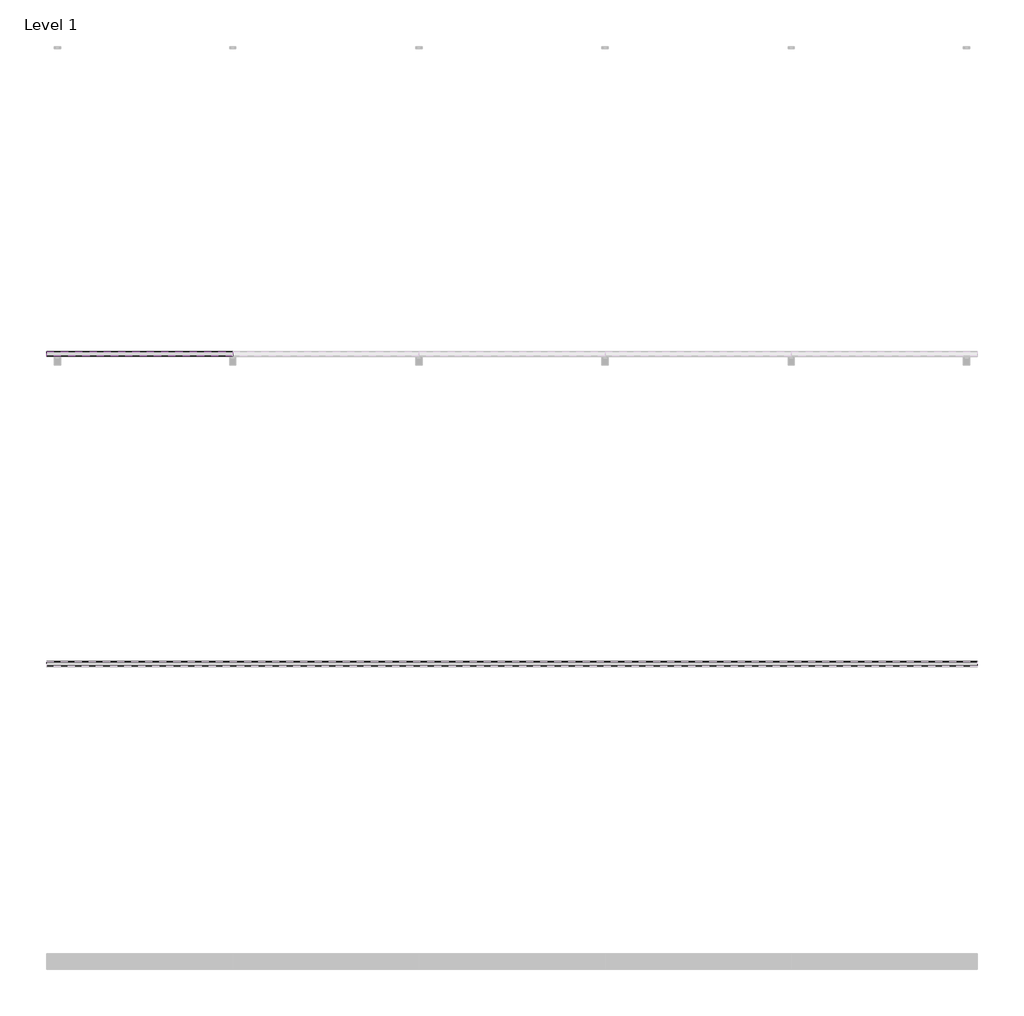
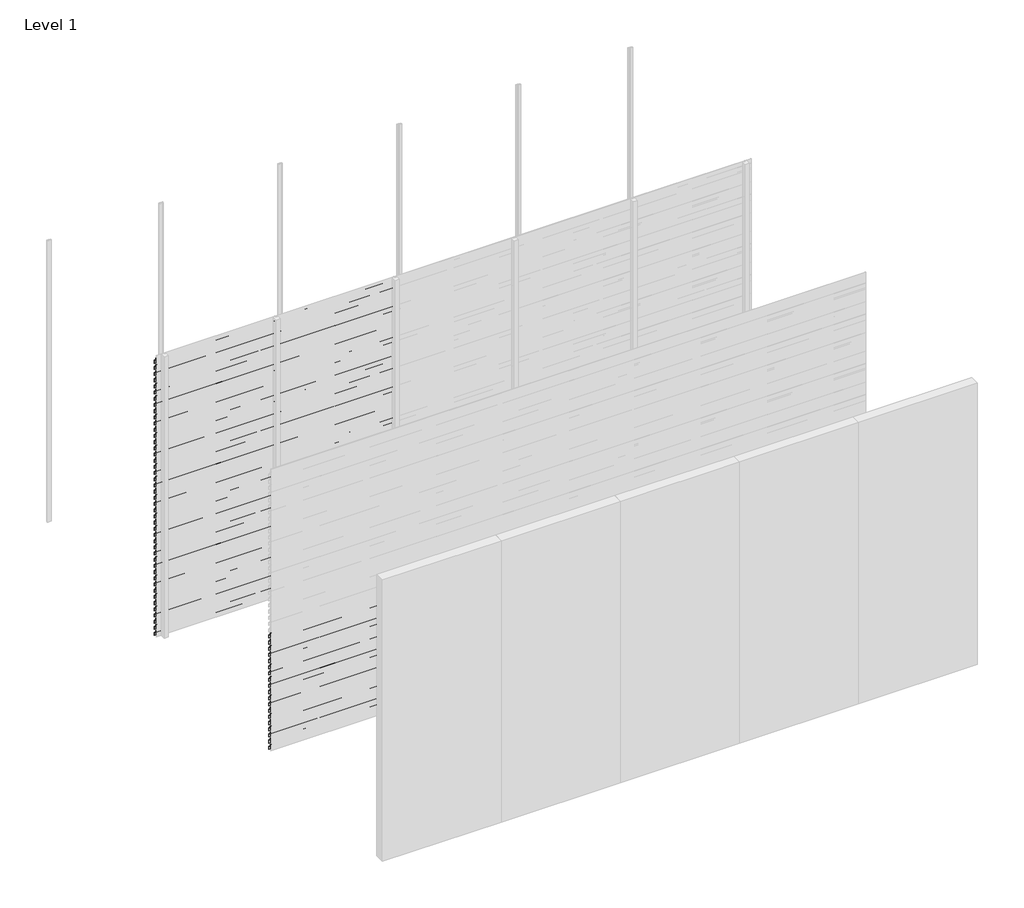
# One storey, part 16 of 33: 88 proxies.
"""IFC4 building model written with IfcOpenShell, lengths in millimetres."""

import ifcopenshell
import ifcopenshell.guid

model = None  # the IFC model being written
_history = None  # IfcOwnerHistory: only IFC2X3 demands one
_inside = {}  # id of a spatial element -> (the spatial element, [elements in it])
_under = {}  # id of a project, library or spatial element -> (it, [spatial elements below it])
_declared = {}  # id of a project -> (the project, [libraries it declares])
_typed = {}  # id of a type object -> (the type object, [elements of that type])
_made_of = {}  # id of a material, layer set ... -> (it, [elements and type objects made of it])


def new_model(schema):
    """Start an empty IFC model of exactly this schema.

    Asked for "IFC4X3", IfcOpenShell would pick the latest addendum, in which some entities
    have other attributes; the version numbers below select the first issue.
    IFC2X3 requires an IfcOwnerHistory on every rooted entity: one is made here for all.
    """
    global model, _history
    if schema == "IFC4X3":
        model = ifcopenshell.file(schema_version=(4, 3, 0, 0))
    else:
        model = ifcopenshell.file(schema=schema)
    _inside.clear()
    _under.clear()
    _declared.clear()
    _typed.clear()
    _made_of.clear()
    _history = None
    if model.schema == "IFC2X3":
        org = make("IfcOrganization", Name="unknown")
        user = make(
            "IfcPersonAndOrganization",
            ThePerson=make("IfcPerson", FamilyName="unknown"),
            TheOrganization=org,
        )
        app = make(
            "IfcApplication",
            ApplicationDeveloper=org,
            Version="unknown",
            ApplicationFullName="unknown",
            ApplicationIdentifier="unknown",
        )
        _history = make(
            "IfcOwnerHistory",
            OwningUser=user,
            OwningApplication=app,
            ChangeAction="ADDED",
            CreationDate=0,
        )
    return model


def make(cls, **values):
    """One entity of the class cls with the attributes given. An attribute that is None is left unset."""
    return model.create_entity(
        cls, **{name: value for name, value in values.items() if value is not None}
    )


def rooted(cls, **values):
    """An entity with a GlobalId (a new one), such as an element, a storey or a relation."""
    return make(cls, GlobalId=ifcopenshell.guid.new(), OwnerHistory=_history, **values)


def si_unit(unit_type, name, prefix=None):
    """IfcSIUnit, for example si_unit("LENGTHUNIT", "METRE", prefix="MILLI")."""
    return make("IfcSIUnit", UnitType=unit_type, Prefix=prefix, Name=name)


def assignment(units):
    """IfcUnitAssignment: the units of a project."""
    return None if units is None else make("IfcUnitAssignment", Units=units)


def point(xyz):
    """IfcCartesianPoint."""
    return None if xyz is None else make("IfcCartesianPoint", Coordinates=xyz)


def direction(xyz):
    """IfcDirection."""
    return None if xyz is None else make("IfcDirection", DirectionRatios=xyz)


def frame(location, z_axis=None, x_axis=None):
    """IfcAxis2Placement3D, a coordinate frame: its origin and axes. An axis left out is left unset."""
    return make(
        "IfcAxis2Placement3D",
        Location=point(location),
        Axis=direction(z_axis),
        RefDirection=direction(x_axis),
    )


def origin():
    """The frame at (0, 0, 0) with its axes left unset."""
    return frame((0.0, 0.0, 0.0))


def place(relative_to, where):
    """IfcLocalPlacement: puts the frame where relative to a parent placement (None: the world)."""
    return make(
        "IfcLocalPlacement", PlacementRelTo=relative_to, RelativePlacement=where
    )


def context(
    kind, dimensions, precision=None, world=None, true_north=None, identifier=None
):
    """IfcGeometricRepresentationContext, for example the 3D "Model" context."""
    return make(
        "IfcGeometricRepresentationContext",
        ContextIdentifier=identifier,
        ContextType=kind,
        CoordinateSpaceDimension=dimensions,
        Precision=precision,
        WorldCoordinateSystem=world,
        TrueNorth=true_north,
    )


def project(units=None, contexts=None):
    """IfcProject with its units and contexts."""
    return rooted(
        "IfcProject",
        Name="project",
        RepresentationContexts=contexts,
        UnitsInContext=assignment(units),
    )


def spatial(cls, under=None, at=None, **own):
    """A site, building, storey or space (cls), placed at a placement, below another one or the project."""
    s = rooted(cls, ObjectPlacement=at, **own)
    if under is not None:
        _under.setdefault(under.id(), (under, []))[1].append(s)
    return s


def polyline(points):
    """IfcPolyline through the points."""
    return make("IfcPolyline", Points=[point(p) for p in points])


def outline(outer, holes=None, kind="AREA"):
    """IfcArbitraryClosedProfileDef: a profile drawn as a closed curve; with holes, ...WithVoids."""
    if holes is None:
        return make("IfcArbitraryClosedProfileDef", ProfileType=kind, OuterCurve=outer)
    return make(
        "IfcArbitraryProfileDefWithVoids",
        ProfileType=kind,
        OuterCurve=outer,
        InnerCurves=holes,
    )


def extrude(swept, where, along, depth):
    """IfcExtrudedAreaSolid: the profile swept, set in the frame where, extruded along a direction by depth."""
    return make(
        "IfcExtrudedAreaSolid",
        SweptArea=swept,
        Position=where,
        ExtrudedDirection=direction(along),
        Depth=depth,
    )


def shape(context_of_items, identifier, shape_type, items):
    """IfcShapeRepresentation: the items that make up one representation, for example the "Body"."""
    return make(
        "IfcShapeRepresentation",
        ContextOfItems=context_of_items,
        RepresentationIdentifier=identifier,
        RepresentationType=shape_type,
        Items=items,
    )


def made_of(thing, what):
    """Note that an element or type object is made of a material, layer set ...; save() writes the relation."""
    if what is not None:
        _made_of.setdefault(what.id(), (what, []))[1].append(thing)
    return thing


def element(
    cls,
    number,
    at=None,
    inside=None,
    cuts=None,
    type_object=None,
    material=None,
    context=None,
    identifier="Body",
    shape_type=None,
    held_by="IfcProductDefinitionShape",
    body=None,
    shapes=None,
    **own,
):
    """One element of the class cls, such as IfcWall. Its Tag is "e" and its number.

    at: its placement. inside: the storey or other place that contains it. cuts: it is an
    opening in that element (IfcRelVoidsElement). A single representation is given by context,
    identifier, shape_type and body (its items); several are given by shapes. held_by: the class
    of the entity that holds the representations. save() writes the other relations.
    """
    e = rooted(cls, Tag="e%d" % number, ObjectPlacement=at, **own)
    if body is not None:
        shapes = [shape(context, identifier, shape_type, body)]
    if shapes is not None:
        e.Representation = make(held_by, Representations=shapes)
    if inside is not None:
        _inside.setdefault(inside.id(), (inside, []))[1].append(e)
    if cuts is not None:
        rooted(
            "IfcRelVoidsElement", RelatingBuildingElement=cuts, RelatedOpeningElement=e
        )
    if type_object is not None:
        _typed.setdefault(type_object.id(), (type_object, []))[1].append(e)
    return made_of(e, material)


def aggregate(whole, parts):
    """IfcRelAggregates: a whole, such as a stair, and the parts it consists of."""
    return rooted("IfcRelAggregates", RelatingObject=whole, RelatedObjects=parts)


def save(model, path):
    """Write the relations noted so far, then the file.

    IfcRelAggregates (storeys below a building ...), IfcRelContainedInSpatialStructure (elements
    in a storey), IfcRelDefinesByType, IfcRelAssociatesMaterial and IfcRelDeclares: one each for
    every whole, place, type object, material and project.
    """
    for whole, parts in _under.values():
        aggregate(whole, parts)
    for where, things in _inside.values():
        rooted(
            "IfcRelContainedInSpatialStructure",
            RelatedElements=things,
            RelatingStructure=where,
        )
    for kind, things in _typed.values():
        rooted("IfcRelDefinesByType", RelatedObjects=things, RelatingType=kind)
    for what, things in _made_of.values():
        rooted("IfcRelAssociatesMaterial", RelatedObjects=things, RelatingMaterial=what)
    for by, libraries in _declared.values():
        rooted("IfcRelDeclares", RelatingContext=by, RelatedDefinitions=libraries)
    model.write(path)


model = new_model("IFC4")

# Units and contexts
model_context = context("Model", 3, world=origin())
ifc_project = project(units=[si_unit("LENGTHUNIT", "METRE", prefix="MILLI")], contexts=[model_context])

# Site, building, storey
site = spatial("IfcSite", under=ifc_project)
building = spatial("IfcBuilding", under=site)
storey = spatial("IfcBuildingStorey", under=building, Name="Level 1", Elevation=0.0)

# Proxies
placement = place(None, origin())
element("IfcBuildingElementProxy", 1, Name="Wall Sweeps", at=placement, inside=storey, context=model_context, shape_type="SweptSolid", body=[
    extrude(outline(polyline([(-29967.0, 2930.0), (-29967.0, 2897.0), (-29968.25, 2897.7216933), (-29968.25, 2929.2872415), (-29998.0, 2950.0588647), (-29998.0, 2970.0), (-29996.75, 2970.0), (-29996.75, 2950.7716232), (-29967.0, 2930.0)])), frame((0.0, 0.0, 0.0), z_axis=(1.0, 0.0, 0.0), x_axis=(0.0, 1.0, 0.0)), (0.0, 0.0, 1.0), 1200.0),
])
element("IfcBuildingElementProxy", 2, Name="Wall Sweeps", at=placement, inside=storey, context=model_context, shape_type="SweptSolid", body=[
    extrude(outline(polyline([(-29967.0, 2864.0), (-29967.0, 2831.0), (-29968.25, 2831.7216933), (-29968.25, 2863.2872415), (-29998.0, 2884.0588647), (-29998.0, 2904.0), (-29996.75, 2904.0), (-29996.75, 2884.7716232), (-29967.0, 2864.0)])), frame((0.0, 0.0, 0.0), z_axis=(1.0, 0.0, 0.0), x_axis=(0.0, 1.0, 0.0)), (0.0, 0.0, 1.0), 1200.0),
])
element("IfcBuildingElementProxy", 3, Name="Wall Sweeps", at=placement, inside=storey, context=model_context, shape_type="SweptSolid", body=[
    extrude(outline(polyline([(-29967.0, 2798.0), (-29967.0, 2765.0), (-29968.25, 2765.7216933), (-29968.25, 2797.2872415), (-29998.0, 2818.0588647), (-29998.0, 2838.0), (-29996.75, 2838.0), (-29996.75, 2818.7716232), (-29967.0, 2798.0)])), frame((0.0, 0.0, 0.0), z_axis=(1.0, 0.0, 0.0), x_axis=(0.0, 1.0, 0.0)), (0.0, 0.0, 1.0), 1200.0),
])
element("IfcBuildingElementProxy", 4, Name="Wall Sweeps", at=placement, inside=storey, context=model_context, shape_type="SweptSolid", body=[
    extrude(outline(polyline([(-29967.0, 2732.0), (-29967.0, 2699.0), (-29968.25, 2699.7216933), (-29968.25, 2731.2872415), (-29998.0, 2752.0588647), (-29998.0, 2772.0), (-29996.75, 2772.0), (-29996.75, 2752.7716232), (-29967.0, 2732.0)])), frame((0.0, 0.0, 0.0), z_axis=(1.0, 0.0, 0.0), x_axis=(0.0, 1.0, 0.0)), (0.0, 0.0, 1.0), 1200.0),
])
element("IfcBuildingElementProxy", 5, Name="Wall Sweeps", at=placement, inside=storey, context=model_context, shape_type="SweptSolid", body=[
    extrude(outline(polyline([(-29967.0, 2666.0), (-29967.0, 2633.0), (-29968.25, 2633.7216933), (-29968.25, 2665.2872415), (-29998.0, 2686.0588647), (-29998.0, 2706.0), (-29996.75, 2706.0), (-29996.75, 2686.7716232), (-29967.0, 2666.0)])), frame((0.0, 0.0, 0.0), z_axis=(1.0, 0.0, 0.0), x_axis=(0.0, 1.0, 0.0)), (0.0, 0.0, 1.0), 1200.0),
])
element("IfcBuildingElementProxy", 6, Name="Wall Sweeps", at=placement, inside=storey, context=model_context, shape_type="SweptSolid", body=[
    extrude(outline(polyline([(-29967.0, 2600.0), (-29967.0, 2567.0), (-29968.25, 2567.7216933), (-29968.25, 2599.2872415), (-29998.0, 2620.0588647), (-29998.0, 2640.0), (-29996.75, 2640.0), (-29996.75, 2620.7716232), (-29967.0, 2600.0)])), frame((0.0, 0.0, 0.0), z_axis=(1.0, 0.0, 0.0), x_axis=(0.0, 1.0, 0.0)), (0.0, 0.0, 1.0), 1200.0),
])
element("IfcBuildingElementProxy", 7, Name="Wall Sweeps", at=placement, inside=storey, context=model_context, shape_type="SweptSolid", body=[
    extrude(outline(polyline([(-29967.0, 2534.0), (-29967.0, 2501.0), (-29968.25, 2501.7216933), (-29968.25, 2533.2872415), (-29998.0, 2554.0588647), (-29998.0, 2574.0), (-29996.75, 2574.0), (-29996.75, 2554.7716232), (-29967.0, 2534.0)])), frame((0.0, 0.0, 0.0), z_axis=(1.0, 0.0, 0.0), x_axis=(0.0, 1.0, 0.0)), (0.0, 0.0, 1.0), 1200.0),
])
element("IfcBuildingElementProxy", 8, Name="Wall Sweeps", at=placement, inside=storey, context=model_context, shape_type="SweptSolid", body=[
    extrude(outline(polyline([(-29967.0, 2468.0), (-29967.0, 2435.0), (-29968.25, 2435.7216933), (-29968.25, 2467.2872415), (-29998.0, 2488.0588647), (-29998.0, 2508.0), (-29996.75, 2508.0), (-29996.75, 2488.7716232), (-29967.0, 2468.0)])), frame((0.0, 0.0, 0.0), z_axis=(1.0, 0.0, 0.0), x_axis=(0.0, 1.0, 0.0)), (0.0, 0.0, 1.0), 1200.0),
])
element("IfcBuildingElementProxy", 9, Name="Wall Sweeps", at=placement, inside=storey, context=model_context, shape_type="SweptSolid", body=[
    extrude(outline(polyline([(-29967.0, 2402.0), (-29967.0, 2369.0), (-29968.25, 2369.7216933), (-29968.25, 2401.2872415), (-29998.0, 2422.0588647), (-29998.0, 2442.0), (-29996.75, 2442.0), (-29996.75, 2422.7716232), (-29967.0, 2402.0)])), frame((0.0, 0.0, 0.0), z_axis=(1.0, 0.0, 0.0), x_axis=(0.0, 1.0, 0.0)), (0.0, 0.0, 1.0), 1200.0),
])
element("IfcBuildingElementProxy", 10, Name="Wall Sweeps", at=placement, inside=storey, context=model_context, shape_type="SweptSolid", body=[
    extrude(outline(polyline([(-29967.0, 2336.0), (-29967.0, 2303.0), (-29968.25, 2303.7216933), (-29968.25, 2335.2872415), (-29998.0, 2356.0588647), (-29998.0, 2376.0), (-29996.75, 2376.0), (-29996.75, 2356.7716232), (-29967.0, 2336.0)])), frame((0.0, 0.0, 0.0), z_axis=(1.0, 0.0, 0.0), x_axis=(0.0, 1.0, 0.0)), (0.0, 0.0, 1.0), 1200.0),
])
element("IfcBuildingElementProxy", 11, Name="Wall Sweeps", at=placement, inside=storey, context=model_context, shape_type="SweptSolid", body=[
    extrude(outline(polyline([(-29967.0, 2270.0), (-29967.0, 2237.0), (-29968.25, 2237.7216933), (-29968.25, 2269.2872415), (-29998.0, 2290.0588647), (-29998.0, 2310.0), (-29996.75, 2310.0), (-29996.75, 2290.7716232), (-29967.0, 2270.0)])), frame((0.0, 0.0, 0.0), z_axis=(1.0, 0.0, 0.0), x_axis=(0.0, 1.0, 0.0)), (0.0, 0.0, 1.0), 1200.0),
])
element("IfcBuildingElementProxy", 12, Name="Wall Sweeps", at=placement, inside=storey, context=model_context, shape_type="SweptSolid", body=[
    extrude(outline(polyline([(-29967.0, 2204.0), (-29967.0, 2171.0), (-29968.25, 2171.7216933), (-29968.25, 2203.2872415), (-29998.0, 2224.0588647), (-29998.0, 2244.0), (-29996.75, 2244.0), (-29996.75, 2224.7716232), (-29967.0, 2204.0)])), frame((0.0, 0.0, 0.0), z_axis=(1.0, 0.0, 0.0), x_axis=(0.0, 1.0, 0.0)), (0.0, 0.0, 1.0), 1200.0),
])
element("IfcBuildingElementProxy", 13, Name="Wall Sweeps", at=placement, inside=storey, context=model_context, shape_type="SweptSolid", body=[
    extrude(outline(polyline([(-29967.0, 2138.0), (-29967.0, 2105.0), (-29968.25, 2105.7216933), (-29968.25, 2137.2872415), (-29998.0, 2158.0588647), (-29998.0, 2178.0), (-29996.75, 2178.0), (-29996.75, 2158.7716232), (-29967.0, 2138.0)])), frame((0.0, 0.0, 0.0), z_axis=(1.0, 0.0, 0.0), x_axis=(0.0, 1.0, 0.0)), (0.0, 0.0, 1.0), 1200.0),
])
element("IfcBuildingElementProxy", 14, Name="Wall Sweeps", at=placement, inside=storey, context=model_context, shape_type="SweptSolid", body=[
    extrude(outline(polyline([(-29967.0, 2072.0), (-29967.0, 2039.0), (-29968.25, 2039.7216933), (-29968.25, 2071.2872415), (-29998.0, 2092.0588647), (-29998.0, 2112.0), (-29996.75, 2112.0), (-29996.75, 2092.7716232), (-29967.0, 2072.0)])), frame((0.0, 0.0, 0.0), z_axis=(1.0, 0.0, 0.0), x_axis=(0.0, 1.0, 0.0)), (0.0, 0.0, 1.0), 1200.0),
])
element("IfcBuildingElementProxy", 15, Name="Wall Sweeps", at=placement, inside=storey, context=model_context, shape_type="SweptSolid", body=[
    extrude(outline(polyline([(-29967.0, 2006.0), (-29967.0, 1973.0), (-29968.25, 1973.7216933), (-29968.25, 2005.2872415), (-29998.0, 2026.0588647), (-29998.0, 2046.0), (-29996.75, 2046.0), (-29996.75, 2026.7716232), (-29967.0, 2006.0)])), frame((0.0, 0.0, 0.0), z_axis=(1.0, 0.0, 0.0), x_axis=(0.0, 1.0, 0.0)), (0.0, 0.0, 1.0), 1200.0),
])
element("IfcBuildingElementProxy", 16, Name="Wall Sweeps", at=placement, inside=storey, context=model_context, shape_type="SweptSolid", body=[
    extrude(outline(polyline([(-29967.0, 1940.0), (-29967.0, 1907.0), (-29968.25, 1907.7216933), (-29968.25, 1939.2872415), (-29998.0, 1960.0588647), (-29998.0, 1980.0), (-29996.75, 1980.0), (-29996.75, 1960.7716232), (-29967.0, 1940.0)])), frame((0.0, 0.0, 0.0), z_axis=(1.0, 0.0, 0.0), x_axis=(0.0, 1.0, 0.0)), (0.0, 0.0, 1.0), 1200.0),
])
element("IfcBuildingElementProxy", 17, Name="Wall Sweeps", at=placement, inside=storey, context=model_context, shape_type="SweptSolid", body=[
    extrude(outline(polyline([(-29967.0, 1874.0), (-29967.0, 1841.0), (-29968.25, 1841.7216933), (-29968.25, 1873.2872415), (-29998.0, 1894.0588647), (-29998.0, 1914.0), (-29996.75, 1914.0), (-29996.75, 1894.7716232), (-29967.0, 1874.0)])), frame((0.0, 0.0, 0.0), z_axis=(1.0, 0.0, 0.0), x_axis=(0.0, 1.0, 0.0)), (0.0, 0.0, 1.0), 1200.0),
])
element("IfcBuildingElementProxy", 18, Name="Wall Sweeps", at=placement, inside=storey, context=model_context, shape_type="SweptSolid", body=[
    extrude(outline(polyline([(-29967.0, 1808.0), (-29967.0, 1775.0), (-29968.25, 1775.7216933), (-29968.25, 1807.2872415), (-29998.0, 1828.0588647), (-29998.0, 1848.0), (-29996.75, 1848.0), (-29996.75, 1828.7716232), (-29967.0, 1808.0)])), frame((0.0, 0.0, 0.0), z_axis=(1.0, 0.0, 0.0), x_axis=(0.0, 1.0, 0.0)), (0.0, 0.0, 1.0), 1200.0),
])
element("IfcBuildingElementProxy", 19, Name="Wall Sweeps", at=placement, inside=storey, context=model_context, shape_type="SweptSolid", body=[
    extrude(outline(polyline([(-29967.0, 1742.0), (-29967.0, 1709.0), (-29968.25, 1709.7216933), (-29968.25, 1741.2872415), (-29998.0, 1762.0588647), (-29998.0, 1782.0), (-29996.75, 1782.0), (-29996.75, 1762.7716232), (-29967.0, 1742.0)])), frame((0.0, 0.0, 0.0), z_axis=(1.0, 0.0, 0.0), x_axis=(0.0, 1.0, 0.0)), (0.0, 0.0, 1.0), 1200.0),
])
element("IfcBuildingElementProxy", 20, Name="Wall Sweeps", at=placement, inside=storey, context=model_context, shape_type="SweptSolid", body=[
    extrude(outline(polyline([(-29967.0, 1676.0), (-29967.0, 1643.0), (-29968.25, 1643.7216933), (-29968.25, 1675.2872415), (-29998.0, 1696.0588647), (-29998.0, 1716.0), (-29996.75, 1716.0), (-29996.75, 1696.7716232), (-29967.0, 1676.0)])), frame((0.0, 0.0, 0.0), z_axis=(1.0, 0.0, 0.0), x_axis=(0.0, 1.0, 0.0)), (0.0, 0.0, 1.0), 1200.0),
])
element("IfcBuildingElementProxy", 21, Name="Wall Sweeps", at=placement, inside=storey, context=model_context, shape_type="SweptSolid", body=[
    extrude(outline(polyline([(-29967.0, 1610.0), (-29967.0, 1577.0), (-29968.25, 1577.7216933), (-29968.25, 1609.2872415), (-29998.0, 1630.0588647), (-29998.0, 1650.0), (-29996.75, 1650.0), (-29996.75, 1630.7716232), (-29967.0, 1610.0)])), frame((0.0, 0.0, 0.0), z_axis=(1.0, 0.0, 0.0), x_axis=(0.0, 1.0, 0.0)), (0.0, 0.0, 1.0), 1200.0),
])
element("IfcBuildingElementProxy", 22, Name="Wall Sweeps", at=placement, inside=storey, context=model_context, shape_type="SweptSolid", body=[
    extrude(outline(polyline([(-29967.0, 1544.0), (-29967.0, 1511.0), (-29968.25, 1511.7216933), (-29968.25, 1543.2872415), (-29998.0, 1564.0588647), (-29998.0, 1584.0), (-29996.75, 1584.0), (-29996.75, 1564.7716232), (-29967.0, 1544.0)])), frame((0.0, 0.0, 0.0), z_axis=(1.0, 0.0, 0.0), x_axis=(0.0, 1.0, 0.0)), (0.0, 0.0, 1.0), 1200.0),
])
element("IfcBuildingElementProxy", 23, Name="Wall Sweeps", at=placement, inside=storey, context=model_context, shape_type="SweptSolid", body=[
    extrude(outline(polyline([(-29967.0, 1478.0), (-29967.0, 1445.0), (-29968.25, 1445.7216933), (-29968.25, 1477.2872415), (-29998.0, 1498.0588647), (-29998.0, 1518.0), (-29996.75, 1518.0), (-29996.75, 1498.7716232), (-29967.0, 1478.0)])), frame((0.0, 0.0, 0.0), z_axis=(1.0, 0.0, 0.0), x_axis=(0.0, 1.0, 0.0)), (0.0, 0.0, 1.0), 1200.0),
])
element("IfcBuildingElementProxy", 24, Name="Wall Sweeps", at=placement, inside=storey, context=model_context, shape_type="SweptSolid", body=[
    extrude(outline(polyline([(-29967.0, 1412.0), (-29967.0, 1379.0), (-29968.25, 1379.7216933), (-29968.25, 1411.2872415), (-29998.0, 1432.0588647), (-29998.0, 1452.0), (-29996.75, 1452.0), (-29996.75, 1432.7716232), (-29967.0, 1412.0)])), frame((0.0, 0.0, 0.0), z_axis=(1.0, 0.0, 0.0), x_axis=(0.0, 1.0, 0.0)), (0.0, 0.0, 1.0), 1200.0),
])
element("IfcBuildingElementProxy", 25, Name="Wall Sweeps", at=placement, inside=storey, context=model_context, shape_type="SweptSolid", body=[
    extrude(outline(polyline([(-29967.0, 1346.0), (-29967.0, 1313.0), (-29968.25, 1313.7216933), (-29968.25, 1345.2872415), (-29998.0, 1366.0588647), (-29998.0, 1386.0), (-29996.75, 1386.0), (-29996.75, 1366.7716232), (-29967.0, 1346.0)])), frame((0.0, 0.0, 0.0), z_axis=(1.0, 0.0, 0.0), x_axis=(0.0, 1.0, 0.0)), (0.0, 0.0, 1.0), 1200.0),
])
element("IfcBuildingElementProxy", 26, Name="Wall Sweeps", at=placement, inside=storey, context=model_context, shape_type="SweptSolid", body=[
    extrude(outline(polyline([(-29967.0, 1280.0), (-29967.0, 1247.0), (-29968.25, 1247.7216933), (-29968.25, 1279.2872415), (-29998.0, 1300.0588647), (-29998.0, 1320.0), (-29996.75, 1320.0), (-29996.75, 1300.7716232), (-29967.0, 1280.0)])), frame((0.0, 0.0, 0.0), z_axis=(1.0, 0.0, 0.0), x_axis=(0.0, 1.0, 0.0)), (0.0, 0.0, 1.0), 1200.0),
])
element("IfcBuildingElementProxy", 27, Name="Wall Sweeps", at=placement, inside=storey, context=model_context, shape_type="SweptSolid", body=[
    extrude(outline(polyline([(-29967.0, 1214.0), (-29967.0, 1181.0), (-29968.25, 1181.7216933), (-29968.25, 1213.2872415), (-29998.0, 1234.0588647), (-29998.0, 1254.0), (-29996.75, 1254.0), (-29996.75, 1234.7716232), (-29967.0, 1214.0)])), frame((0.0, 0.0, 0.0), z_axis=(1.0, 0.0, 0.0), x_axis=(0.0, 1.0, 0.0)), (0.0, 0.0, 1.0), 1200.0),
])
element("IfcBuildingElementProxy", 28, Name="Wall Sweeps", at=placement, inside=storey, context=model_context, shape_type="SweptSolid", body=[
    extrude(outline(polyline([(-29967.0, 1148.0), (-29967.0, 1115.0), (-29968.25, 1115.7216933), (-29968.25, 1147.2872415), (-29998.0, 1168.0588647), (-29998.0, 1188.0), (-29996.75, 1188.0), (-29996.75, 1168.7716232), (-29967.0, 1148.0)])), frame((0.0, 0.0, 0.0), z_axis=(1.0, 0.0, 0.0), x_axis=(0.0, 1.0, 0.0)), (0.0, 0.0, 1.0), 1200.0),
])
element("IfcBuildingElementProxy", 29, Name="Wall Sweeps", at=placement, inside=storey, context=model_context, shape_type="SweptSolid", body=[
    extrude(outline(polyline([(-29967.0, 1082.0), (-29967.0, 1049.0), (-29968.25, 1049.7216933), (-29968.25, 1081.2872415), (-29998.0, 1102.0588647), (-29998.0, 1122.0), (-29996.75, 1122.0), (-29996.75, 1102.7716232), (-29967.0, 1082.0)])), frame((0.0, 0.0, 0.0), z_axis=(1.0, 0.0, 0.0), x_axis=(0.0, 1.0, 0.0)), (0.0, 0.0, 1.0), 1200.0),
])
element("IfcBuildingElementProxy", 30, Name="Wall Sweeps", at=placement, inside=storey, context=model_context, shape_type="SweptSolid", body=[
    extrude(outline(polyline([(-29967.0, 1016.0), (-29967.0, 983.0), (-29968.25, 983.7216933), (-29968.25, 1015.2872415), (-29998.0, 1036.0588647), (-29998.0, 1056.0), (-29996.75, 1056.0), (-29996.75, 1036.7716232), (-29967.0, 1016.0)])), frame((0.0, 0.0, 0.0), z_axis=(1.0, 0.0, 0.0), x_axis=(0.0, 1.0, 0.0)), (0.0, 0.0, 1.0), 1200.0),
])
element("IfcBuildingElementProxy", 31, Name="Wall Sweeps", at=placement, inside=storey, context=model_context, shape_type="SweptSolid", body=[
    extrude(outline(polyline([(-29967.0, 950.0), (-29967.0, 917.0), (-29968.25, 917.7216933), (-29968.25, 949.2872415), (-29998.0, 970.0588647), (-29998.0, 990.0), (-29996.75, 990.0), (-29996.75, 970.7716232), (-29967.0, 950.0)])), frame((0.0, 0.0, 0.0), z_axis=(1.0, 0.0, 0.0), x_axis=(0.0, 1.0, 0.0)), (0.0, 0.0, 1.0), 1200.0),
])
element("IfcBuildingElementProxy", 32, Name="Wall Sweeps", at=placement, inside=storey, context=model_context, shape_type="SweptSolid", body=[
    extrude(outline(polyline([(-29967.0, 884.0), (-29967.0, 851.0), (-29968.25, 851.7216933), (-29968.25, 883.2872415), (-29998.0, 904.0588647), (-29998.0, 924.0), (-29996.75, 924.0), (-29996.75, 904.7716232), (-29967.0, 884.0)])), frame((0.0, 0.0, 0.0), z_axis=(1.0, 0.0, 0.0), x_axis=(0.0, 1.0, 0.0)), (0.0, 0.0, 1.0), 1200.0),
])
element("IfcBuildingElementProxy", 33, Name="Wall Sweeps", at=placement, inside=storey, context=model_context, shape_type="SweptSolid", body=[
    extrude(outline(polyline([(-29967.0, 818.0), (-29967.0, 785.0), (-29968.25, 785.7216933), (-29968.25, 817.2872415), (-29998.0, 838.0588647), (-29998.0, 858.0), (-29996.75, 858.0), (-29996.75, 838.7716232), (-29967.0, 818.0)])), frame((0.0, 0.0, 0.0), z_axis=(1.0, 0.0, 0.0), x_axis=(0.0, 1.0, 0.0)), (0.0, 0.0, 1.0), 1200.0),
])
element("IfcBuildingElementProxy", 34, Name="Wall Sweeps", at=placement, inside=storey, context=model_context, shape_type="SweptSolid", body=[
    extrude(outline(polyline([(-29967.0, 752.0), (-29967.0, 719.0), (-29968.25, 719.7216933), (-29968.25, 751.2872415), (-29998.0, 772.0588647), (-29998.0, 792.0), (-29996.75, 792.0), (-29996.75, 772.7716232), (-29967.0, 752.0)])), frame((0.0, 0.0, 0.0), z_axis=(1.0, 0.0, 0.0), x_axis=(0.0, 1.0, 0.0)), (0.0, 0.0, 1.0), 1200.0),
])
element("IfcBuildingElementProxy", 35, Name="Wall Sweeps", at=placement, inside=storey, context=model_context, shape_type="SweptSolid", body=[
    extrude(outline(polyline([(-29967.0, 686.0), (-29967.0, 653.0), (-29968.25, 653.7216933), (-29968.25, 685.2872415), (-29998.0, 706.0588647), (-29998.0, 726.0), (-29996.75, 726.0), (-29996.75, 706.7716232), (-29967.0, 686.0)])), frame((0.0, 0.0, 0.0), z_axis=(1.0, 0.0, 0.0), x_axis=(0.0, 1.0, 0.0)), (0.0, 0.0, 1.0), 1200.0),
])
element("IfcBuildingElementProxy", 36, Name="Wall Sweeps", at=placement, inside=storey, context=model_context, shape_type="SweptSolid", body=[
    extrude(outline(polyline([(-29967.0, 620.0), (-29967.0, 587.0), (-29968.25, 587.7216933), (-29968.25, 619.2872415), (-29998.0, 640.0588647), (-29998.0, 660.0), (-29996.75, 660.0), (-29996.75, 640.7716232), (-29967.0, 620.0)])), frame((0.0, 0.0, 0.0), z_axis=(1.0, 0.0, 0.0), x_axis=(0.0, 1.0, 0.0)), (0.0, 0.0, 1.0), 1200.0),
])
element("IfcBuildingElementProxy", 37, Name="Wall Sweeps", at=placement, inside=storey, context=model_context, shape_type="SweptSolid", body=[
    extrude(outline(polyline([(-29967.0, 554.0), (-29967.0, 521.0), (-29968.25, 521.7216933), (-29968.25, 553.2872415), (-29998.0, 574.0588647), (-29998.0, 594.0), (-29996.75, 594.0), (-29996.75, 574.7716232), (-29967.0, 554.0)])), frame((0.0, 0.0, 0.0), z_axis=(1.0, 0.0, 0.0), x_axis=(0.0, 1.0, 0.0)), (0.0, 0.0, 1.0), 1200.0),
])
element("IfcBuildingElementProxy", 38, Name="Wall Sweeps", at=placement, inside=storey, context=model_context, shape_type="SweptSolid", body=[
    extrude(outline(polyline([(-29967.0, 488.0), (-29967.0, 455.0), (-29968.25, 455.7216933), (-29968.25, 487.2872415), (-29998.0, 508.0588647), (-29998.0, 528.0), (-29996.75, 528.0), (-29996.75, 508.7716232), (-29967.0, 488.0)])), frame((0.0, 0.0, 0.0), z_axis=(1.0, 0.0, 0.0), x_axis=(0.0, 1.0, 0.0)), (0.0, 0.0, 1.0), 1200.0),
])
element("IfcBuildingElementProxy", 39, Name="Wall Sweeps", at=placement, inside=storey, context=model_context, shape_type="SweptSolid", body=[
    extrude(outline(polyline([(-29967.0, 422.0), (-29967.0, 389.0), (-29968.25, 389.7216933), (-29968.25, 421.2872415), (-29998.0, 442.0588647), (-29998.0, 462.0), (-29996.75, 462.0), (-29996.75, 442.7716232), (-29967.0, 422.0)])), frame((0.0, 0.0, 0.0), z_axis=(1.0, 0.0, 0.0), x_axis=(0.0, 1.0, 0.0)), (0.0, 0.0, 1.0), 1200.0),
])
element("IfcBuildingElementProxy", 40, Name="Wall Sweeps", at=placement, inside=storey, context=model_context, shape_type="SweptSolid", body=[
    extrude(outline(polyline([(-29967.0, 356.0), (-29967.0, 323.0), (-29968.25, 323.7216933), (-29968.25, 355.2872415), (-29998.0, 376.0588647), (-29998.0, 396.0), (-29996.75, 396.0), (-29996.75, 376.7716232), (-29967.0, 356.0)])), frame((0.0, 0.0, 0.0), z_axis=(1.0, 0.0, 0.0), x_axis=(0.0, 1.0, 0.0)), (0.0, 0.0, 1.0), 1200.0),
])
element("IfcBuildingElementProxy", 41, Name="Wall Sweeps", at=placement, inside=storey, context=model_context, shape_type="SweptSolid", body=[
    extrude(outline(polyline([(-29967.0, 290.0), (-29967.0, 257.0), (-29968.25, 257.7216933), (-29968.25, 289.2872415), (-29998.0, 310.0588647), (-29998.0, 330.0), (-29996.75, 330.0), (-29996.75, 310.7716232), (-29967.0, 290.0)])), frame((0.0, 0.0, 0.0), z_axis=(1.0, 0.0, 0.0), x_axis=(0.0, 1.0, 0.0)), (0.0, 0.0, 1.0), 1200.0),
])
element("IfcBuildingElementProxy", 42, Name="Wall Sweeps", at=placement, inside=storey, context=model_context, shape_type="SweptSolid", body=[
    extrude(outline(polyline([(-29967.0, 224.0), (-29967.0, 191.0), (-29968.25, 191.7216933), (-29968.25, 223.2872415), (-29998.0, 244.0588647), (-29998.0, 264.0), (-29996.75, 264.0), (-29996.75, 244.7716232), (-29967.0, 224.0)])), frame((0.0, 0.0, 0.0), z_axis=(1.0, 0.0, 0.0), x_axis=(0.0, 1.0, 0.0)), (0.0, 0.0, 1.0), 1200.0),
])
element("IfcBuildingElementProxy", 43, Name="Wall Sweeps", at=placement, inside=storey, context=model_context, shape_type="SweptSolid", body=[
    extrude(outline(polyline([(-29967.0, 158.0), (-29967.0, 125.0), (-29968.25, 125.7216933), (-29968.25, 157.2872415), (-29998.0, 178.0588647), (-29998.0, 198.0), (-29996.75, 198.0), (-29996.75, 178.7716232), (-29967.0, 158.0)])), frame((0.0, 0.0, 0.0), z_axis=(1.0, 0.0, 0.0), x_axis=(0.0, 1.0, 0.0)), (0.0, 0.0, 1.0), 1200.0),
])
element("IfcBuildingElementProxy", 44, Name="Wall Sweeps", at=placement, inside=storey, context=model_context, shape_type="SweptSolid", body=[
    extrude(outline(polyline([(-29967.0, 92.0), (-29967.0, 59.0), (-29968.25, 59.7216933), (-29968.25, 91.2872415), (-29998.0, 112.0588647), (-29998.0, 132.0), (-29996.75, 132.0), (-29996.75, 112.7716232), (-29967.0, 92.0)])), frame((0.0, 0.0, 0.0), z_axis=(1.0, 0.0, 0.0), x_axis=(0.0, 1.0, 0.0)), (0.0, 0.0, 1.0), 1200.0),
])
element("IfcBuildingElementProxy", 45, Name="Wall Sweeps", at=placement, inside=storey, context=model_context, shape_type="SweptSolid", body=[
    extrude(outline(polyline([(-29967.0, 26.0), (-29967.0, -7.0), (-29968.25, -6.2783067), (-29968.25, 25.2872415), (-29998.0, 46.0588647), (-29998.0, 66.0), (-29996.75, 66.0), (-29996.75, 46.7716232), (-29967.0, 26.0)])), frame((0.0, 0.0, 0.0), z_axis=(1.0, 0.0, 0.0), x_axis=(0.0, 1.0, 0.0)), (0.0, 0.0, 1.0), 1200.0),
])
element("IfcBuildingElementProxy", 46, Name="Wall Sweeps", at=placement, inside=storey, context=model_context, shape_type="SweptSolid", body=[
    extrude(outline(polyline([(-29967.0, 2930.0), (-29967.0, 2897.0), (-29968.25, 2897.7216933), (-29968.25, 2929.2872415), (-29998.0, 2950.0588647), (-29998.0, 2970.0), (-29996.75, 2970.0), (-29996.75, 2950.7716232), (-29967.0, 2930.0)])), frame((1200.0, 0.0, 0.0), z_axis=(1.0, 0.0, 0.0), x_axis=(0.0, 1.0, 0.0)), (0.0, 0.0, 1.0), 1200.0),
])
element("IfcBuildingElementProxy", 47, Name="Wall Sweeps", at=placement, inside=storey, context=model_context, shape_type="SweptSolid", body=[
    extrude(outline(polyline([(-29967.0, 2864.0), (-29967.0, 2831.0), (-29968.25, 2831.7216933), (-29968.25, 2863.2872415), (-29998.0, 2884.0588647), (-29998.0, 2904.0), (-29996.75, 2904.0), (-29996.75, 2884.7716232), (-29967.0, 2864.0)])), frame((1200.0, 0.0, 0.0), z_axis=(1.0, 0.0, 0.0), x_axis=(0.0, 1.0, 0.0)), (0.0, 0.0, 1.0), 1200.0),
])
element("IfcBuildingElementProxy", 48, Name="Wall Sweeps", at=placement, inside=storey, context=model_context, shape_type="SweptSolid", body=[
    extrude(outline(polyline([(-29967.0, 2798.0), (-29967.0, 2765.0), (-29968.25, 2765.7216933), (-29968.25, 2797.2872415), (-29998.0, 2818.0588647), (-29998.0, 2838.0), (-29996.75, 2838.0), (-29996.75, 2818.7716232), (-29967.0, 2798.0)])), frame((1200.0, 0.0, 0.0), z_axis=(1.0, 0.0, 0.0), x_axis=(0.0, 1.0, 0.0)), (0.0, 0.0, 1.0), 1200.0),
])
element("IfcBuildingElementProxy", 49, Name="Wall Sweeps", at=placement, inside=storey, context=model_context, shape_type="SweptSolid", body=[
    extrude(outline(polyline([(-29967.0, 2732.0), (-29967.0, 2699.0), (-29968.25, 2699.7216933), (-29968.25, 2731.2872415), (-29998.0, 2752.0588647), (-29998.0, 2772.0), (-29996.75, 2772.0), (-29996.75, 2752.7716232), (-29967.0, 2732.0)])), frame((1200.0, 0.0, 0.0), z_axis=(1.0, 0.0, 0.0), x_axis=(0.0, 1.0, 0.0)), (0.0, 0.0, 1.0), 1200.0),
])
element("IfcBuildingElementProxy", 50, Name="Wall Sweeps", at=placement, inside=storey, context=model_context, shape_type="SweptSolid", body=[
    extrude(outline(polyline([(-29967.0, 2666.0), (-29967.0, 2633.0), (-29968.25, 2633.7216933), (-29968.25, 2665.2872415), (-29998.0, 2686.0588647), (-29998.0, 2706.0), (-29996.75, 2706.0), (-29996.75, 2686.7716232), (-29967.0, 2666.0)])), frame((1200.0, 0.0, 0.0), z_axis=(1.0, 0.0, 0.0), x_axis=(0.0, 1.0, 0.0)), (0.0, 0.0, 1.0), 1200.0),
])
element("IfcBuildingElementProxy", 51, Name="Wall Sweeps", at=placement, inside=storey, context=model_context, shape_type="SweptSolid", body=[
    extrude(outline(polyline([(-29967.0, 2600.0), (-29967.0, 2567.0), (-29968.25, 2567.7216933), (-29968.25, 2599.2872415), (-29998.0, 2620.0588647), (-29998.0, 2640.0), (-29996.75, 2640.0), (-29996.75, 2620.7716232), (-29967.0, 2600.0)])), frame((1200.0, 0.0, 0.0), z_axis=(1.0, 0.0, 0.0), x_axis=(0.0, 1.0, 0.0)), (0.0, 0.0, 1.0), 1200.0),
])
element("IfcBuildingElementProxy", 52, Name="Wall Sweeps", at=placement, inside=storey, context=model_context, shape_type="SweptSolid", body=[
    extrude(outline(polyline([(-29967.0, 2534.0), (-29967.0, 2501.0), (-29968.25, 2501.7216933), (-29968.25, 2533.2872415), (-29998.0, 2554.0588647), (-29998.0, 2574.0), (-29996.75, 2574.0), (-29996.75, 2554.7716232), (-29967.0, 2534.0)])), frame((1200.0, 0.0, 0.0), z_axis=(1.0, 0.0, 0.0), x_axis=(0.0, 1.0, 0.0)), (0.0, 0.0, 1.0), 1200.0),
])
element("IfcBuildingElementProxy", 53, Name="Wall Sweeps", at=placement, inside=storey, context=model_context, shape_type="SweptSolid", body=[
    extrude(outline(polyline([(-29967.0, 2468.0), (-29967.0, 2435.0), (-29968.25, 2435.7216933), (-29968.25, 2467.2872415), (-29998.0, 2488.0588647), (-29998.0, 2508.0), (-29996.75, 2508.0), (-29996.75, 2488.7716232), (-29967.0, 2468.0)])), frame((1200.0, 0.0, 0.0), z_axis=(1.0, 0.0, 0.0), x_axis=(0.0, 1.0, 0.0)), (0.0, 0.0, 1.0), 1200.0),
])
element("IfcBuildingElementProxy", 54, Name="Wall Sweeps", at=placement, inside=storey, context=model_context, shape_type="SweptSolid", body=[
    extrude(outline(polyline([(-29967.0, 2402.0), (-29967.0, 2369.0), (-29968.25, 2369.7216933), (-29968.25, 2401.2872415), (-29998.0, 2422.0588647), (-29998.0, 2442.0), (-29996.75, 2442.0), (-29996.75, 2422.7716232), (-29967.0, 2402.0)])), frame((1200.0, 0.0, 0.0), z_axis=(1.0, 0.0, 0.0), x_axis=(0.0, 1.0, 0.0)), (0.0, 0.0, 1.0), 1200.0),
])
element("IfcBuildingElementProxy", 55, Name="Wall Sweeps", at=placement, inside=storey, context=model_context, shape_type="SweptSolid", body=[
    extrude(outline(polyline([(-29967.0, 2336.0), (-29967.0, 2303.0), (-29968.25, 2303.7216933), (-29968.25, 2335.2872415), (-29998.0, 2356.0588647), (-29998.0, 2376.0), (-29996.75, 2376.0), (-29996.75, 2356.7716232), (-29967.0, 2336.0)])), frame((1200.0, 0.0, 0.0), z_axis=(1.0, 0.0, 0.0), x_axis=(0.0, 1.0, 0.0)), (0.0, 0.0, 1.0), 1200.0),
])
element("IfcBuildingElementProxy", 56, Name="Wall Sweeps", at=placement, inside=storey, context=model_context, shape_type="SweptSolid", body=[
    extrude(outline(polyline([(-29967.0, 2270.0), (-29967.0, 2237.0), (-29968.25, 2237.7216933), (-29968.25, 2269.2872415), (-29998.0, 2290.0588647), (-29998.0, 2310.0), (-29996.75, 2310.0), (-29996.75, 2290.7716232), (-29967.0, 2270.0)])), frame((1200.0, 0.0, 0.0), z_axis=(1.0, 0.0, 0.0), x_axis=(0.0, 1.0, 0.0)), (0.0, 0.0, 1.0), 1200.0),
])
element("IfcBuildingElementProxy", 57, Name="Wall Sweeps", at=placement, inside=storey, context=model_context, shape_type="SweptSolid", body=[
    extrude(outline(polyline([(-29967.0, 2204.0), (-29967.0, 2171.0), (-29968.25, 2171.7216933), (-29968.25, 2203.2872415), (-29998.0, 2224.0588647), (-29998.0, 2244.0), (-29996.75, 2244.0), (-29996.75, 2224.7716232), (-29967.0, 2204.0)])), frame((1200.0, 0.0, 0.0), z_axis=(1.0, 0.0, 0.0), x_axis=(0.0, 1.0, 0.0)), (0.0, 0.0, 1.0), 1200.0),
])
element("IfcBuildingElementProxy", 58, Name="Wall Sweeps", at=placement, inside=storey, context=model_context, shape_type="SweptSolid", body=[
    extrude(outline(polyline([(-29967.0, 2138.0), (-29967.0, 2105.0), (-29968.25, 2105.7216933), (-29968.25, 2137.2872415), (-29998.0, 2158.0588647), (-29998.0, 2178.0), (-29996.75, 2178.0), (-29996.75, 2158.7716232), (-29967.0, 2138.0)])), frame((1200.0, 0.0, 0.0), z_axis=(1.0, 0.0, 0.0), x_axis=(0.0, 1.0, 0.0)), (0.0, 0.0, 1.0), 1200.0),
])
element("IfcBuildingElementProxy", 59, Name="Wall Sweeps", at=placement, inside=storey, context=model_context, shape_type="SweptSolid", body=[
    extrude(outline(polyline([(-29967.0, 2072.0), (-29967.0, 2039.0), (-29968.25, 2039.7216933), (-29968.25, 2071.2872415), (-29998.0, 2092.0588647), (-29998.0, 2112.0), (-29996.75, 2112.0), (-29996.75, 2092.7716232), (-29967.0, 2072.0)])), frame((1200.0, 0.0, 0.0), z_axis=(1.0, 0.0, 0.0), x_axis=(0.0, 1.0, 0.0)), (0.0, 0.0, 1.0), 1200.0),
])
element("IfcBuildingElementProxy", 60, Name="Wall Sweeps", at=placement, inside=storey, context=model_context, shape_type="SweptSolid", body=[
    extrude(outline(polyline([(-29967.0, 2006.0), (-29967.0, 1973.0), (-29968.25, 1973.7216933), (-29968.25, 2005.2872415), (-29998.0, 2026.0588647), (-29998.0, 2046.0), (-29996.75, 2046.0), (-29996.75, 2026.7716232), (-29967.0, 2006.0)])), frame((1200.0, 0.0, 0.0), z_axis=(1.0, 0.0, 0.0), x_axis=(0.0, 1.0, 0.0)), (0.0, 0.0, 1.0), 1200.0),
])
element("IfcBuildingElementProxy", 61, Name="Wall Sweeps", at=placement, inside=storey, context=model_context, shape_type="SweptSolid", body=[
    extrude(outline(polyline([(-29967.0, 1940.0), (-29967.0, 1907.0), (-29968.25, 1907.7216933), (-29968.25, 1939.2872415), (-29998.0, 1960.0588647), (-29998.0, 1980.0), (-29996.75, 1980.0), (-29996.75, 1960.7716232), (-29967.0, 1940.0)])), frame((1200.0, 0.0, 0.0), z_axis=(1.0, 0.0, 0.0), x_axis=(0.0, 1.0, 0.0)), (0.0, 0.0, 1.0), 1200.0),
])
element("IfcBuildingElementProxy", 62, Name="Wall Sweeps", at=placement, inside=storey, context=model_context, shape_type="SweptSolid", body=[
    extrude(outline(polyline([(-29967.0, 1874.0), (-29967.0, 1841.0), (-29968.25, 1841.7216933), (-29968.25, 1873.2872415), (-29998.0, 1894.0588647), (-29998.0, 1914.0), (-29996.75, 1914.0), (-29996.75, 1894.7716232), (-29967.0, 1874.0)])), frame((1200.0, 0.0, 0.0), z_axis=(1.0, 0.0, 0.0), x_axis=(0.0, 1.0, 0.0)), (0.0, 0.0, 1.0), 1200.0),
])
element("IfcBuildingElementProxy", 63, Name="Wall Sweeps", at=placement, inside=storey, context=model_context, shape_type="SweptSolid", body=[
    extrude(outline(polyline([(-29967.0, 1808.0), (-29967.0, 1775.0), (-29968.25, 1775.7216933), (-29968.25, 1807.2872415), (-29998.0, 1828.0588647), (-29998.0, 1848.0), (-29996.75, 1848.0), (-29996.75, 1828.7716232), (-29967.0, 1808.0)])), frame((1200.0, 0.0, 0.0), z_axis=(1.0, 0.0, 0.0), x_axis=(0.0, 1.0, 0.0)), (0.0, 0.0, 1.0), 1200.0),
])
element("IfcBuildingElementProxy", 64, Name="Wall Sweeps", at=placement, inside=storey, context=model_context, shape_type="SweptSolid", body=[
    extrude(outline(polyline([(-29967.0, 1742.0), (-29967.0, 1709.0), (-29968.25, 1709.7216933), (-29968.25, 1741.2872415), (-29998.0, 1762.0588647), (-29998.0, 1782.0), (-29996.75, 1782.0), (-29996.75, 1762.7716232), (-29967.0, 1742.0)])), frame((1200.0, 0.0, 0.0), z_axis=(1.0, 0.0, 0.0), x_axis=(0.0, 1.0, 0.0)), (0.0, 0.0, 1.0), 1200.0),
])
element("IfcBuildingElementProxy", 65, Name="Wall Sweeps", at=placement, inside=storey, context=model_context, shape_type="SweptSolid", body=[
    extrude(outline(polyline([(-29967.0, 1676.0), (-29967.0, 1643.0), (-29968.25, 1643.7216933), (-29968.25, 1675.2872415), (-29998.0, 1696.0588647), (-29998.0, 1716.0), (-29996.75, 1716.0), (-29996.75, 1696.7716232), (-29967.0, 1676.0)])), frame((1200.0, 0.0, 0.0), z_axis=(1.0, 0.0, 0.0), x_axis=(0.0, 1.0, 0.0)), (0.0, 0.0, 1.0), 1200.0),
])
element("IfcBuildingElementProxy", 66, Name="Wall Sweeps", at=placement, inside=storey, context=model_context, shape_type="SweptSolid", body=[
    extrude(outline(polyline([(-29967.0, 1610.0), (-29967.0, 1577.0), (-29968.25, 1577.7216933), (-29968.25, 1609.2872415), (-29998.0, 1630.0588647), (-29998.0, 1650.0), (-29996.75, 1650.0), (-29996.75, 1630.7716232), (-29967.0, 1610.0)])), frame((1200.0, 0.0, 0.0), z_axis=(1.0, 0.0, 0.0), x_axis=(0.0, 1.0, 0.0)), (0.0, 0.0, 1.0), 1200.0),
])
element("IfcBuildingElementProxy", 67, Name="Wall Sweeps", at=placement, inside=storey, context=model_context, shape_type="SweptSolid", body=[
    extrude(outline(polyline([(-29967.0, 1544.0), (-29967.0, 1511.0), (-29968.25, 1511.7216933), (-29968.25, 1543.2872415), (-29998.0, 1564.0588647), (-29998.0, 1584.0), (-29996.75, 1584.0), (-29996.75, 1564.7716232), (-29967.0, 1544.0)])), frame((1200.0, 0.0, 0.0), z_axis=(1.0, 0.0, 0.0), x_axis=(0.0, 1.0, 0.0)), (0.0, 0.0, 1.0), 1200.0),
])
element("IfcBuildingElementProxy", 68, Name="Wall Sweeps", at=placement, inside=storey, context=model_context, shape_type="SweptSolid", body=[
    extrude(outline(polyline([(-29967.0, 1478.0), (-29967.0, 1445.0), (-29968.25, 1445.7216933), (-29968.25, 1477.2872415), (-29998.0, 1498.0588647), (-29998.0, 1518.0), (-29996.75, 1518.0), (-29996.75, 1498.7716232), (-29967.0, 1478.0)])), frame((1200.0, 0.0, 0.0), z_axis=(1.0, 0.0, 0.0), x_axis=(0.0, 1.0, 0.0)), (0.0, 0.0, 1.0), 1200.0),
])
element("IfcBuildingElementProxy", 69, Name="Wall Sweeps", at=placement, inside=storey, context=model_context, shape_type="SweptSolid", body=[
    extrude(outline(polyline([(-29967.0, 1412.0), (-29967.0, 1379.0), (-29968.25, 1379.7216933), (-29968.25, 1411.2872415), (-29998.0, 1432.0588647), (-29998.0, 1452.0), (-29996.75, 1452.0), (-29996.75, 1432.7716232), (-29967.0, 1412.0)])), frame((1200.0, 0.0, 0.0), z_axis=(1.0, 0.0, 0.0), x_axis=(0.0, 1.0, 0.0)), (0.0, 0.0, 1.0), 1200.0),
])
element("IfcBuildingElementProxy", 70, Name="Wall Sweeps", at=placement, inside=storey, context=model_context, shape_type="SweptSolid", body=[
    extrude(outline(polyline([(-31967.0, 1214.0), (-31967.0, 1181.0), (-31968.25, 1181.7216933), (-31968.25, 1213.2872415), (-31998.0, 1234.0588647), (-31998.0, 1254.0), (-31996.75, 1254.0), (-31996.75, 1234.7716232), (-31967.0, 1214.0)])), frame((0.0, 0.0, 0.0), z_axis=(1.0, 0.0, 0.0), x_axis=(0.0, 1.0, 0.0)), (0.0, 0.0, 1.0), 6000.0),
])
element("IfcBuildingElementProxy", 71, Name="Wall Sweeps", at=placement, inside=storey, context=model_context, shape_type="SweptSolid", body=[
    extrude(outline(polyline([(-31967.0, 1148.0), (-31967.0, 1115.0), (-31968.25, 1115.7216933), (-31968.25, 1147.2872415), (-31998.0, 1168.0588647), (-31998.0, 1188.0), (-31996.75, 1188.0), (-31996.75, 1168.7716232), (-31967.0, 1148.0)])), frame((0.0, 0.0, 0.0), z_axis=(1.0, 0.0, 0.0), x_axis=(0.0, 1.0, 0.0)), (0.0, 0.0, 1.0), 6000.0),
])
element("IfcBuildingElementProxy", 72, Name="Wall Sweeps", at=placement, inside=storey, context=model_context, shape_type="SweptSolid", body=[
    extrude(outline(polyline([(-31967.0, 1082.0), (-31967.0, 1049.0), (-31968.25, 1049.7216933), (-31968.25, 1081.2872415), (-31998.0, 1102.0588647), (-31998.0, 1122.0), (-31996.75, 1122.0), (-31996.75, 1102.7716232), (-31967.0, 1082.0)])), frame((0.0, 0.0, 0.0), z_axis=(1.0, 0.0, 0.0), x_axis=(0.0, 1.0, 0.0)), (0.0, 0.0, 1.0), 6000.0),
])
element("IfcBuildingElementProxy", 73, Name="Wall Sweeps", at=placement, inside=storey, context=model_context, shape_type="SweptSolid", body=[
    extrude(outline(polyline([(-31967.0, 1016.0), (-31967.0, 983.0), (-31968.25, 983.7216933), (-31968.25, 1015.2872415), (-31998.0, 1036.0588647), (-31998.0, 1056.0), (-31996.75, 1056.0), (-31996.75, 1036.7716232), (-31967.0, 1016.0)])), frame((0.0, 0.0, 0.0), z_axis=(1.0, 0.0, 0.0), x_axis=(0.0, 1.0, 0.0)), (0.0, 0.0, 1.0), 6000.0),
])
element("IfcBuildingElementProxy", 74, Name="Wall Sweeps", at=placement, inside=storey, context=model_context, shape_type="SweptSolid", body=[
    extrude(outline(polyline([(-31967.0, 950.0), (-31967.0, 917.0), (-31968.25, 917.7216933), (-31968.25, 949.2872415), (-31998.0, 970.0588647), (-31998.0, 990.0), (-31996.75, 990.0), (-31996.75, 970.7716232), (-31967.0, 950.0)])), frame((0.0, 0.0, 0.0), z_axis=(1.0, 0.0, 0.0), x_axis=(0.0, 1.0, 0.0)), (0.0, 0.0, 1.0), 6000.0),
])
element("IfcBuildingElementProxy", 75, Name="Wall Sweeps", at=placement, inside=storey, context=model_context, shape_type="SweptSolid", body=[
    extrude(outline(polyline([(-31967.0, 884.0), (-31967.0, 851.0), (-31968.25, 851.7216933), (-31968.25, 883.2872415), (-31998.0, 904.0588647), (-31998.0, 924.0), (-31996.75, 924.0), (-31996.75, 904.7716232), (-31967.0, 884.0)])), frame((0.0, 0.0, 0.0), z_axis=(1.0, 0.0, 0.0), x_axis=(0.0, 1.0, 0.0)), (0.0, 0.0, 1.0), 6000.0),
])
element("IfcBuildingElementProxy", 76, Name="Wall Sweeps", at=placement, inside=storey, context=model_context, shape_type="SweptSolid", body=[
    extrude(outline(polyline([(-31967.0, 818.0), (-31967.0, 785.0), (-31968.25, 785.7216933), (-31968.25, 817.2872415), (-31998.0, 838.0588647), (-31998.0, 858.0), (-31996.75, 858.0), (-31996.75, 838.7716232), (-31967.0, 818.0)])), frame((0.0, 0.0, 0.0), z_axis=(1.0, 0.0, 0.0), x_axis=(0.0, 1.0, 0.0)), (0.0, 0.0, 1.0), 6000.0),
])
element("IfcBuildingElementProxy", 77, Name="Wall Sweeps", at=placement, inside=storey, context=model_context, shape_type="SweptSolid", body=[
    extrude(outline(polyline([(-31967.0, 752.0), (-31967.0, 719.0), (-31968.25, 719.7216933), (-31968.25, 751.2872415), (-31998.0, 772.0588647), (-31998.0, 792.0), (-31996.75, 792.0), (-31996.75, 772.7716232), (-31967.0, 752.0)])), frame((0.0, 0.0, 0.0), z_axis=(1.0, 0.0, 0.0), x_axis=(0.0, 1.0, 0.0)), (0.0, 0.0, 1.0), 6000.0),
])
element("IfcBuildingElementProxy", 78, Name="Wall Sweeps", at=placement, inside=storey, context=model_context, shape_type="SweptSolid", body=[
    extrude(outline(polyline([(-31967.0, 686.0), (-31967.0, 653.0), (-31968.25, 653.7216933), (-31968.25, 685.2872415), (-31998.0, 706.0588647), (-31998.0, 726.0), (-31996.75, 726.0), (-31996.75, 706.7716232), (-31967.0, 686.0)])), frame((0.0, 0.0, 0.0), z_axis=(1.0, 0.0, 0.0), x_axis=(0.0, 1.0, 0.0)), (0.0, 0.0, 1.0), 6000.0),
])
element("IfcBuildingElementProxy", 79, Name="Wall Sweeps", at=placement, inside=storey, context=model_context, shape_type="SweptSolid", body=[
    extrude(outline(polyline([(-31967.0, 620.0), (-31967.0, 587.0), (-31968.25, 587.7216933), (-31968.25, 619.2872415), (-31998.0, 640.0588647), (-31998.0, 660.0), (-31996.75, 660.0), (-31996.75, 640.7716232), (-31967.0, 620.0)])), frame((0.0, 0.0, 0.0), z_axis=(1.0, 0.0, 0.0), x_axis=(0.0, 1.0, 0.0)), (0.0, 0.0, 1.0), 6000.0),
])
element("IfcBuildingElementProxy", 80, Name="Wall Sweeps", at=placement, inside=storey, context=model_context, shape_type="SweptSolid", body=[
    extrude(outline(polyline([(-31967.0, 554.0), (-31967.0, 521.0), (-31968.25, 521.7216933), (-31968.25, 553.2872415), (-31998.0, 574.0588647), (-31998.0, 594.0), (-31996.75, 594.0), (-31996.75, 574.7716232), (-31967.0, 554.0)])), frame((0.0, 0.0, 0.0), z_axis=(1.0, 0.0, 0.0), x_axis=(0.0, 1.0, 0.0)), (0.0, 0.0, 1.0), 6000.0),
])
element("IfcBuildingElementProxy", 81, Name="Wall Sweeps", at=placement, inside=storey, context=model_context, shape_type="SweptSolid", body=[
    extrude(outline(polyline([(-31967.0, 488.0), (-31967.0, 455.0), (-31968.25, 455.7216933), (-31968.25, 487.2872415), (-31998.0, 508.0588647), (-31998.0, 528.0), (-31996.75, 528.0), (-31996.75, 508.7716232), (-31967.0, 488.0)])), frame((0.0, 0.0, 0.0), z_axis=(1.0, 0.0, 0.0), x_axis=(0.0, 1.0, 0.0)), (0.0, 0.0, 1.0), 6000.0),
])
element("IfcBuildingElementProxy", 82, Name="Wall Sweeps", at=placement, inside=storey, context=model_context, shape_type="SweptSolid", body=[
    extrude(outline(polyline([(-31967.0, 422.0), (-31967.0, 389.0), (-31968.25, 389.7216933), (-31968.25, 421.2872415), (-31998.0, 442.0588647), (-31998.0, 462.0), (-31996.75, 462.0), (-31996.75, 442.7716232), (-31967.0, 422.0)])), frame((0.0, 0.0, 0.0), z_axis=(1.0, 0.0, 0.0), x_axis=(0.0, 1.0, 0.0)), (0.0, 0.0, 1.0), 6000.0),
])
element("IfcBuildingElementProxy", 83, Name="Wall Sweeps", at=placement, inside=storey, context=model_context, shape_type="SweptSolid", body=[
    extrude(outline(polyline([(-31967.0, 356.0), (-31967.0, 323.0), (-31968.25, 323.7216933), (-31968.25, 355.2872415), (-31998.0, 376.0588647), (-31998.0, 396.0), (-31996.75, 396.0), (-31996.75, 376.7716232), (-31967.0, 356.0)])), frame((0.0, 0.0, 0.0), z_axis=(1.0, 0.0, 0.0), x_axis=(0.0, 1.0, 0.0)), (0.0, 0.0, 1.0), 6000.0),
])
element("IfcBuildingElementProxy", 84, Name="Wall Sweeps", at=placement, inside=storey, context=model_context, shape_type="SweptSolid", body=[
    extrude(outline(polyline([(-31967.0, 290.0), (-31967.0, 257.0), (-31968.25, 257.7216933), (-31968.25, 289.2872415), (-31998.0, 310.0588647), (-31998.0, 330.0), (-31996.75, 330.0), (-31996.75, 310.7716232), (-31967.0, 290.0)])), frame((0.0, 0.0, 0.0), z_axis=(1.0, 0.0, 0.0), x_axis=(0.0, 1.0, 0.0)), (0.0, 0.0, 1.0), 6000.0),
])
element("IfcBuildingElementProxy", 85, Name="Wall Sweeps", at=placement, inside=storey, context=model_context, shape_type="SweptSolid", body=[
    extrude(outline(polyline([(-31967.0, 224.0), (-31967.0, 191.0), (-31968.25, 191.7216933), (-31968.25, 223.2872415), (-31998.0, 244.0588647), (-31998.0, 264.0), (-31996.75, 264.0), (-31996.75, 244.7716232), (-31967.0, 224.0)])), frame((0.0, 0.0, 0.0), z_axis=(1.0, 0.0, 0.0), x_axis=(0.0, 1.0, 0.0)), (0.0, 0.0, 1.0), 6000.0),
])
element("IfcBuildingElementProxy", 86, Name="Wall Sweeps", at=placement, inside=storey, context=model_context, shape_type="SweptSolid", body=[
    extrude(outline(polyline([(-31967.0, 158.0), (-31967.0, 125.0), (-31968.25, 125.7216933), (-31968.25, 157.2872415), (-31998.0, 178.0588647), (-31998.0, 198.0), (-31996.75, 198.0), (-31996.75, 178.7716232), (-31967.0, 158.0)])), frame((0.0, 0.0, 0.0), z_axis=(1.0, 0.0, 0.0), x_axis=(0.0, 1.0, 0.0)), (0.0, 0.0, 1.0), 6000.0),
])
element("IfcBuildingElementProxy", 87, Name="Wall Sweeps", at=placement, inside=storey, context=model_context, shape_type="SweptSolid", body=[
    extrude(outline(polyline([(-31967.0, 92.0), (-31967.0, 59.0), (-31968.25, 59.7216933), (-31968.25, 91.2872415), (-31998.0, 112.0588647), (-31998.0, 132.0), (-31996.75, 132.0), (-31996.75, 112.7716232), (-31967.0, 92.0)])), frame((0.0, 0.0, 0.0), z_axis=(1.0, 0.0, 0.0), x_axis=(0.0, 1.0, 0.0)), (0.0, 0.0, 1.0), 6000.0),
])
element("IfcBuildingElementProxy", 88, Name="Wall Sweeps", at=placement, inside=storey, context=model_context, shape_type="SweptSolid", body=[
    extrude(outline(polyline([(-31967.0, 26.0), (-31967.0, -7.0), (-31968.25, -6.2783067), (-31968.25, 25.2872415), (-31998.0, 46.0588647), (-31998.0, 66.0), (-31996.75, 66.0), (-31996.75, 46.7716232), (-31967.0, 26.0)])), frame((0.0, 0.0, 0.0), z_axis=(1.0, 0.0, 0.0), x_axis=(0.0, 1.0, 0.0)), (0.0, 0.0, 1.0), 6000.0),
])

save(model, "model.ifc")
